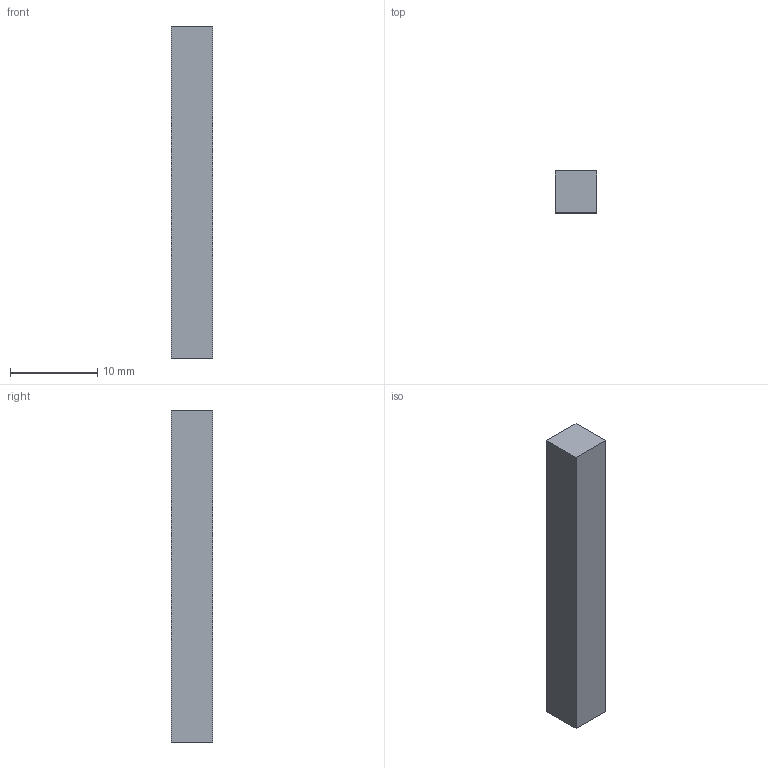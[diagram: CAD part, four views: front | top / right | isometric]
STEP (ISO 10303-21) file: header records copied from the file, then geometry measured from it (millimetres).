
FILE_DESCRIPTION(/* description */ (''),/* implementation_level */ '2;1');
FILE_NAME(/* name */ 'F:\Google Drive\Research\3d Printer Research\Feedstock Grinder\Ginder Parts\Shaft Key.step',/* time_stamp */ '2016-08-18T22:23:54-07:00',/* author */ ('Brenton'),/* organization */ (''),/* preprocessor_version */ 'ST-DEVELOPER v15.6',/* originating_system */ 'Autodesk Inventor 2015',/* authorisation */ '');
FILE_SCHEMA (('AUTOMOTIVE_DESIGN { 1 0 10303 214 3 1 1 }'));
Length unit declared in the file: inch
Products named in the file (1): keyway
Bounding box: 4.76 x 4.76 x 38.1 mm (x, y, z)
Volume: 864.2 mm3; surface area: 771.2 mm2
Topology: 1 solids, 1 shells, 6 faces, 12 edges, 8 vertices
Faces by surface type: plane 6
Entity records: 182 total; most frequent: CARTESIAN_POINT 27, DIRECTION 26, ORIENTED_EDGE 24, LINE 12, VECTOR 12, EDGE_CURVE 12, VERTEX_POINT 8, AXIS2_PLACEMENT_3D 7
